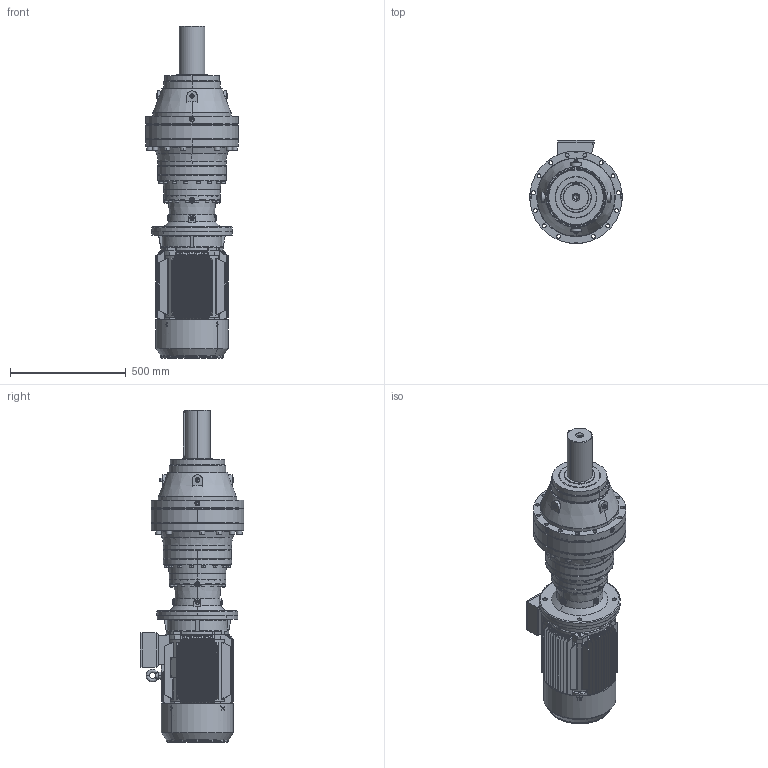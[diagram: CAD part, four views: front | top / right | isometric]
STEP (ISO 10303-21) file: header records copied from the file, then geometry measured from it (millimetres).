
FILE_DESCRIPTION (( 'STEP AP203' ), '1' );
FILE_NAME ('PVL-2703L-HS160L-4.STEP', '2019-05-24T07:46:57', ( '' ), ( '' ), 'SwSTEP 2.0', 'SolidWorks 2012', '' );
FILE_SCHEMA (( 'CONFIG_CONTROL_DESIGN' ));
Products named in the file (18): M3-HS160L-FF-B5; PVL-2703L-HS160L-4; Y2-160_shaft; M3-160L-FF-B5; Y2-160-2ª¥--®+_-++ñ; +¦i-MN2-160_-++ñ; +ª+§ªiY2-160ñ»ª­_-++ñ; Y2-160L+À+¿(B5)_-++ñ; Y2-160-4Ý¾6Ý¾8-ª+---®+_-++ñ; Eyebolts GB_GB_FASTENER_SCREWS_FRS M12N; Y2-160ñ»ª­+¿_-++ñ; FL12A_Varsayìlan; Y2-160-180ñ»ª­®+_-++ñ; PNL_2703L_0_0_A16_B5_ML43A_FL12A_0_0_0_0_0_0_0_0_0_0_0_M1; ML43A_Varsayìlan; 15160B5_Varsayìlan; EK2703L_Varsayìlan; P27_Varsayìlan
Assembly tree (17 placements, depth 5):
  PVL-2703L-HS160L-4
    PNL_2703L_0_0_A16_B5_ML43A_FL12A_0_0_0_0_0_0_0_0_0_0_0_M1
      P27_Varsayìlan
      15160B5_Varsayìlan
      ML43A_Varsayìlan
      EK2703L_Varsayìlan
      FL12A_Varsayìlan
    M3-HS160L-FF-B5
      M3-160L-FF-B5
        +ª+§ªiY2-160ñ»ª­_-++ñ
          Y2-160-180ñ»ª­®+_-++ñ
          Y2-160ñ»ª­+¿_-++ñ
        Y2-160-4Ý¾6Ý¾8-ª+---®+_-++ñ
        Y2-160L+À+¿(B5)_-++ñ
        Eyebolts GB_GB_FASTENER_SCREWS_FRS M12N
        Y2-160-2ª¥--®+_-++ñ
        +¦i-MN2-160_-++ñ
        Y2-160_shaft
Bounding box: 400 x 447 x 1436.5 mm (x, y, z)
Volume: 57370833.4 mm3; surface area: 4274961.3 mm2
Topology: 17 solids, 17 shells, 3469 faces, 9317 edges, 5944 vertices
Faces by surface type: plane 1465, cylinder 1302, bspline 346, cone 253, torus 63, sphere 40
Entity records: 152264 total; most frequent: CARTESIAN_POINT 66521, ORIENTED_EDGE 18366, DIRECTION 16592, EDGE_CURVE 9183, AXIS2_PLACEMENT_3D 6305, VERTEX_POINT 5929, LINE 3982, VECTOR 3982
